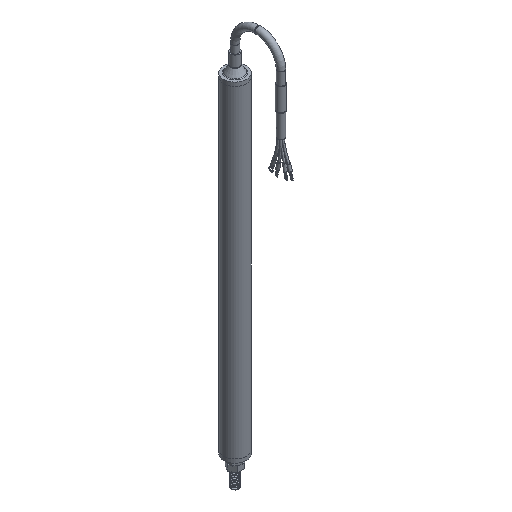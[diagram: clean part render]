
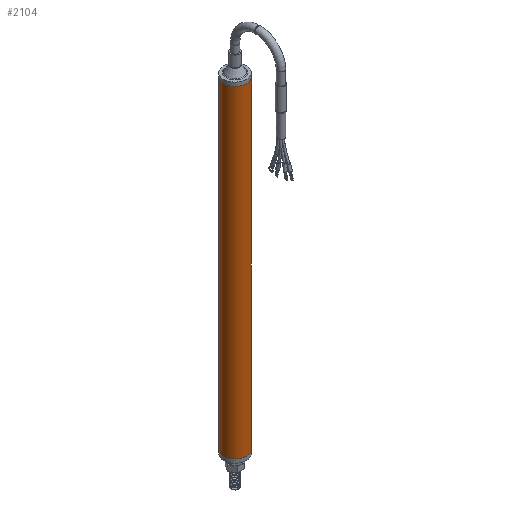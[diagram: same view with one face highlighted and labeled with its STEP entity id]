
A CAD part, isometric view. The second image highlights one B-rep face of the part: STEP entity #2104.
In plain terms, the highlighted cylindrical face has radius 6.35 mm (diameter 12.7 mm), a full revolution.
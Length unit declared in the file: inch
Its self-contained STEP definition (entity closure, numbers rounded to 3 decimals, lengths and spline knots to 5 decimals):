
#98=LINE('',#3305,#245);
#245=VECTOR('',#2707,0.25);
#391=CYLINDRICAL_SURFACE('',#2422,0.25);
#462=FACE_OUTER_BOUND('',#600,.T.);
#600=EDGE_LOOP('',(#1364,#1365,#1366,#1367,#1368));
#744=CIRCLE('',#2410,0.25);
#745=CIRCLE('',#2411,0.25);
#750=CIRCLE('',#2420,0.25);
#846=VERTEX_POINT('',#3282);
#847=VERTEX_POINT('',#3284);
#852=VERTEX_POINT('',#3300);
#1043=EDGE_CURVE('',#847,#846,#744,.T.);
#1044=EDGE_CURVE('',#846,#847,#745,.T.);
#1051=EDGE_CURVE('',#852,#852,#750,.T.);
#1052=EDGE_CURVE('',#852,#847,#98,.T.);
#1364=ORIENTED_EDGE('',*,*,#1051,.F.);
#1365=ORIENTED_EDGE('',*,*,#1052,.T.);
#1366=ORIENTED_EDGE('',*,*,#1043,.T.);
#1367=ORIENTED_EDGE('',*,*,#1044,.T.);
#1368=ORIENTED_EDGE('',*,*,#1052,.F.);
#2104=ADVANCED_FACE('',(#462),#391,.T.);
#2410=AXIS2_PLACEMENT_3D('',#3285,#2679,#2680);
#2411=AXIS2_PLACEMENT_3D('',#3286,#2681,#2682);
#2420=AXIS2_PLACEMENT_3D('',#3302,#2701,#2702);
#2422=AXIS2_PLACEMENT_3D('',#3304,#2705,#2706);
#2679=DIRECTION('center_axis',(0.,0.,-1.));
#2680=DIRECTION('ref_axis',(-1.,0.,0.));
#2681=DIRECTION('center_axis',(0.,0.,-1.));
#2682=DIRECTION('ref_axis',(-1.,0.,0.));
#2701=DIRECTION('center_axis',(0.,0.,-1.));
#2702=DIRECTION('ref_axis',(-1.,0.,0.));
#2705=DIRECTION('center_axis',(0.,0.,-1.));
#2706=DIRECTION('ref_axis',(-1.,0.,0.));
#2707=DIRECTION('',(0.,0.,1.));
#3282=CARTESIAN_POINT('',(0.,0.25,0.));
#3284=CARTESIAN_POINT('',(0.25,0.,0.));
#3285=CARTESIAN_POINT('Origin',(0.,0.,0.));
#3286=CARTESIAN_POINT('Origin',(0.,0.,0.));
#3300=CARTESIAN_POINT('',(0.25,0.,-6.92913));
#3302=CARTESIAN_POINT('Origin',(0.,0.,-6.92913));
#3304=CARTESIAN_POINT('Origin',(0.,0.,0.));
#3305=CARTESIAN_POINT('',(0.25,0.,0.));
